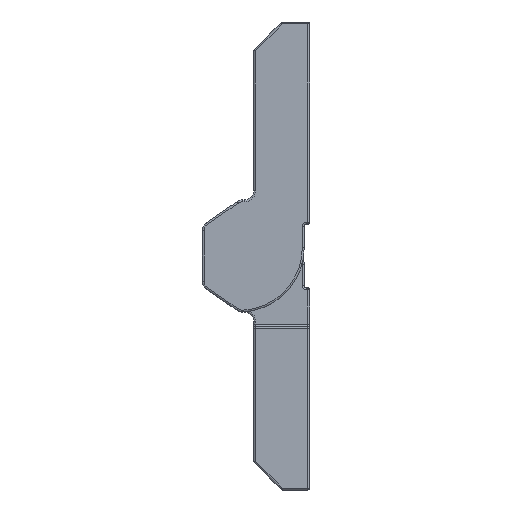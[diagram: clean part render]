
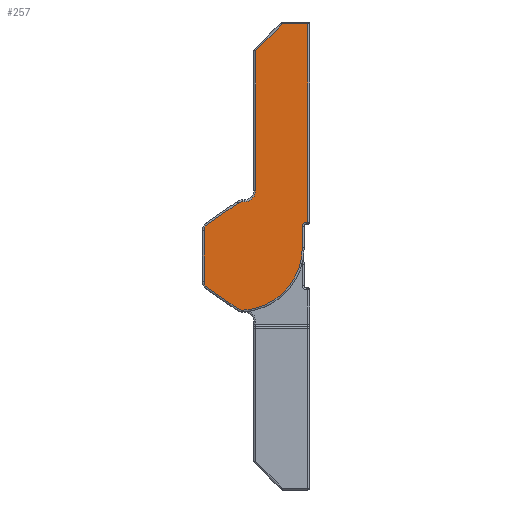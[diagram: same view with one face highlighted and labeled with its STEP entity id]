
A CAD part, left-side view. The second image highlights one B-rep face of the part: STEP entity #257.
In plain terms, the highlighted planar face has unit normal (-1, 0, 0) as drawn and (1, 0, 0) by its records, which use the part's own axes.
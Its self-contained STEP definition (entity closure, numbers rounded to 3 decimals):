
#235 = VERTEX_POINT ( 'NONE', #2197 ) ;
#237 = ORIENTED_EDGE ( 'NONE', *, *, #322, .T. ) ;
#246 = VERTEX_POINT ( 'NONE', #2277 ) ;
#252 = EDGE_CURVE ( 'NONE', #277, #287, #2270, .T. ) ;
#253 = EDGE_CURVE ( 'NONE', #261, #279, #2278, .T. ) ;
#257 = ADVANCED_FACE ( 'NONE', ( #2257 ), #2312, .F. ) ;
#258 = ORIENTED_EDGE ( 'NONE', *, *, #260, .T. ) ;
#259 = ORIENTED_EDGE ( 'NONE', *, *, #253, .F. ) ;
#260 = EDGE_CURVE ( 'NONE', #261, #277, #2308, .T. ) ;
#261 = VERTEX_POINT ( 'NONE', #2311 ) ;
#265 = EDGE_LOOP ( 'NONE', ( #259, #258, #269, #267, #272, #237, #331, #334, #332, #323, #327, #268, #335, #371, #306, #305, #303, #369 ) ) ;
#266 = VERTEX_POINT ( 'NONE', #2309 ) ;
#267 = ORIENTED_EDGE ( 'NONE', *, *, #270, .T. ) ;
#268 = ORIENTED_EDGE ( 'NONE', *, *, #338, .T. ) ;
#269 = ORIENTED_EDGE ( 'NONE', *, *, #252, .T. ) ;
#270 = EDGE_CURVE ( 'NONE', #287, #266, #2302, .T. ) ;
#271 = EDGE_CURVE ( 'NONE', #266, #246, #2297, .T. ) ;
#272 = ORIENTED_EDGE ( 'NONE', *, *, #271, .T. ) ;
#277 = VERTEX_POINT ( 'NONE', #2282 ) ;
#279 = VERTEX_POINT ( 'NONE', #2288 ) ;
#287 = VERTEX_POINT ( 'NONE', #2318 ) ;
#293 = VERTEX_POINT ( 'NONE', #2369 ) ;
#303 = ORIENTED_EDGE ( 'NONE', *, *, #304, .T. ) ;
#304 = EDGE_CURVE ( 'NONE', #1772, #315, #2347, .T. ) ;
#305 = ORIENTED_EDGE ( 'NONE', *, *, #1771, .T. ) ;
#306 = ORIENTED_EDGE ( 'NONE', *, *, #380, .T. ) ;
#311 = VERTEX_POINT ( 'NONE', #2400 ) ;
#312 = EDGE_CURVE ( 'NONE', #315, #279, #2342, .T. ) ;
#315 = VERTEX_POINT ( 'NONE', #2398 ) ;
#319 = EDGE_CURVE ( 'NONE', #329, #293, #2383, .T. ) ;
#320 = VERTEX_POINT ( 'NONE', #2346 ) ;
#321 = VERTEX_POINT ( 'NONE', #2390 ) ;
#322 = EDGE_CURVE ( 'NONE', #246, #324, #2385, .T. ) ;
#323 = ORIENTED_EDGE ( 'NONE', *, *, #326, .T. ) ;
#324 = VERTEX_POINT ( 'NONE', #2386 ) ;
#325 = EDGE_CURVE ( 'NONE', #330, #320, #2379, .T. ) ;
#326 = EDGE_CURVE ( 'NONE', #320, #336, #2430, .T. ) ;
#327 = ORIENTED_EDGE ( 'NONE', *, *, #333, .T. ) ;
#328 = EDGE_CURVE ( 'NONE', #324, #321, #2431, .T. ) ;
#329 = VERTEX_POINT ( 'NONE', #2426 ) ;
#330 = VERTEX_POINT ( 'NONE', #2420 ) ;
#331 = ORIENTED_EDGE ( 'NONE', *, *, #328, .T. ) ;
#332 = ORIENTED_EDGE ( 'NONE', *, *, #325, .T. ) ;
#333 = EDGE_CURVE ( 'NONE', #336, #235, #2424, .T. ) ;
#334 = ORIENTED_EDGE ( 'NONE', *, *, #337, .T. ) ;
#335 = ORIENTED_EDGE ( 'NONE', *, *, #319, .T. ) ;
#336 = VERTEX_POINT ( 'NONE', #2425 ) ;
#337 = EDGE_CURVE ( 'NONE', #321, #330, #2414, .T. ) ;
#338 = EDGE_CURVE ( 'NONE', #235, #329, #2408, .T. ) ;
#369 = ORIENTED_EDGE ( 'NONE', *, *, #312, .T. ) ;
#371 = ORIENTED_EDGE ( 'NONE', *, *, #381, .T. ) ;
#380 = EDGE_CURVE ( 'NONE', #311, #1766, #2524, .T. ) ;
#381 = EDGE_CURVE ( 'NONE', #293, #311, #2526, .T. ) ;
#1766 = VERTEX_POINT ( 'NONE', #4996 ) ;
#1771 = EDGE_CURVE ( 'NONE', #1766, #1772, #4990, .T. ) ;
#1772 = VERTEX_POINT ( 'NONE', #4993 ) ;
#2197 = CARTESIAN_POINT ( 'NONE',  ( 25., 5.55, -2.724 ) ) ;
#2251 = DIRECTION ( 'NONE',  ( 0., 0., 1. ) ) ;
#2252 = DIRECTION ( 'NONE',  ( 1., 0., 0. ) ) ;
#2253 = CARTESIAN_POINT ( 'NONE',  ( 25., -5.35, -3.2 ) ) ;
#2254 = CARTESIAN_POINT ( 'NONE',  ( 25., 5.75, -6. ) ) ;
#2257 = FACE_OUTER_BOUND ( 'NONE', #265, .T. ) ;
#2258 = AXIS2_PLACEMENT_3D ( 'NONE', #2254, #2266, #2265 ) ;
#2259 = DIRECTION ( 'NONE',  ( 0., 0., -1. ) ) ;
#2260 = VECTOR ( 'NONE', #2259, 1000. ) ;
#2265 = DIRECTION ( 'NONE',  ( 0., 0., 1. ) ) ;
#2266 = DIRECTION ( 'NONE',  ( -1., 0., 0. ) ) ;
#2269 = CARTESIAN_POINT ( 'NONE',  ( 25., -5.55, -6. ) ) ;
#2270 = LINE ( 'NONE', #2269, #2260 ) ;
#2276 = AXIS2_PLACEMENT_3D ( 'NONE', #2253, #2252, #2251 ) ;
#2277 = CARTESIAN_POINT ( 'NONE',  ( 25., 0.05, -21.917 ) ) ;
#2278 = CIRCLE ( 'NONE', #2276, 0.4 ) ;
#2282 = CARTESIAN_POINT ( 'NONE',  ( 25., -5.55, -3.6 ) ) ;
#2288 = CARTESIAN_POINT ( 'NONE',  ( 25., -4.95, -3.2 ) ) ;
#2294 = DIRECTION ( 'NONE',  ( 0., 0.707, 0.707 ) ) ;
#2295 = VECTOR ( 'NONE', #2294, 1000. ) ;
#2296 = CARTESIAN_POINT ( 'NONE',  ( 25., 0.109, -21.859 ) ) ;
#2297 = LINE ( 'NONE', #2296, #2295 ) ;
#2299 = DIRECTION ( 'NONE',  ( 0., 1., 0. ) ) ;
#2300 = VECTOR ( 'NONE', #2299, 1000. ) ;
#2301 = CARTESIAN_POINT ( 'NONE',  ( 25., 5.75, -24.8 ) ) ;
#2302 = LINE ( 'NONE', #2301, #2300 ) ;
#2305 = DIRECTION ( 'NONE',  ( 0., -1., 0. ) ) ;
#2306 = VECTOR ( 'NONE', #2305, 1000. ) ;
#2307 = CARTESIAN_POINT ( 'NONE',  ( 25., 5.75, -3.6 ) ) ;
#2308 = LINE ( 'NONE', #2307, #2306 ) ;
#2309 = CARTESIAN_POINT ( 'NONE',  ( 25., -2.833, -24.8 ) ) ;
#2311 = CARTESIAN_POINT ( 'NONE',  ( 25., -5.35, -3.6 ) ) ;
#2312 = PLANE ( 'NONE',  #2258 ) ;
#2318 = CARTESIAN_POINT ( 'NONE',  ( 25., -5.55, -24.8 ) ) ;
#2342 = LINE ( 'NONE', #2393, #2392 ) ;
#2343 = DIRECTION ( 'NONE',  ( 1., 0., 0. ) ) ;
#2344 = CARTESIAN_POINT ( 'NONE',  ( 25., 1.75, -0.9 ) ) ;
#2345 = AXIS2_PLACEMENT_3D ( 'NONE', #2344, #2343, #2402 ) ;
#2346 = CARTESIAN_POINT ( 'NONE',  ( 25., 1.893, -5.659 ) ) ;
#2347 = CIRCLE ( 'NONE', #2345, 6.7 ) ;
#2369 = CARTESIAN_POINT ( 'NONE',  ( 25., 5.203, 3.383 ) ) ;
#2376 = DIRECTION ( 'NONE',  ( 0., 0., 1. ) ) ;
#2377 = VECTOR ( 'NONE', #2376, 1000. ) ;
#2378 = CARTESIAN_POINT ( 'NONE',  ( 25., 0.05, -6. ) ) ;
#2379 = CIRCLE ( 'NONE', #2384, 0.8 ) ;
#2380 = DIRECTION ( 'NONE',  ( 0., 0., 1. ) ) ;
#2381 = DIRECTION ( 'NONE',  ( 1., 0., 0. ) ) ;
#2382 = AXIS2_PLACEMENT_3D ( 'NONE', #2389, #2381, #2380 ) ;
#2383 = CIRCLE ( 'NONE', #2382, 0.8 ) ;
#2384 = AXIS2_PLACEMENT_3D ( 'NONE', #2434, #2433, #2432 ) ;
#2385 = LINE ( 'NONE', #2378, #2377 ) ;
#2386 = CARTESIAN_POINT ( 'NONE',  ( 25., 0.05, -7. ) ) ;
#2389 = CARTESIAN_POINT ( 'NONE',  ( 25., 4.75, 2.724 ) ) ;
#2390 = CARTESIAN_POINT ( 'NONE',  ( 25., 1.25, -5.8 ) ) ;
#2391 = DIRECTION ( 'NONE',  ( 0., 0., -1. ) ) ;
#2392 = VECTOR ( 'NONE', #2391, 1000. ) ;
#2393 = CARTESIAN_POINT ( 'NONE',  ( 25., -4.95, -6. ) ) ;
#2398 = CARTESIAN_POINT ( 'NONE',  ( 25., -4.95, -0.9 ) ) ;
#2400 = CARTESIAN_POINT ( 'NONE',  ( 25., 1.904, 5.652 ) ) ;
#2402 = DIRECTION ( 'NONE',  ( 0., 0., 1. ) ) ;
#2405 = DIRECTION ( 'NONE',  ( 0., 0., 1. ) ) ;
#2406 = VECTOR ( 'NONE', #2405, 1000. ) ;
#2407 = CARTESIAN_POINT ( 'NONE',  ( 25., 5.55, -6. ) ) ;
#2408 = LINE ( 'NONE', #2407, #2406 ) ;
#2411 = DIRECTION ( 'NONE',  ( 0., 1., 0. ) ) ;
#2412 = VECTOR ( 'NONE', #2411, 1000. ) ;
#2413 = CARTESIAN_POINT ( 'NONE',  ( 25., 5.75, -5.8 ) ) ;
#2414 = LINE ( 'NONE', #2413, #2412 ) ;
#2415 = DIRECTION ( 'NONE',  ( 0., 0., 1. ) ) ;
#2416 = DIRECTION ( 'NONE',  ( 1., 0., 0. ) ) ;
#2417 = CARTESIAN_POINT ( 'NONE',  ( 25., 4.75, -2.724 ) ) ;
#2418 = AXIS2_PLACEMENT_3D ( 'NONE', #2417, #2416, #2415 ) ;
#2420 = CARTESIAN_POINT ( 'NONE',  ( 25., 1.439, -5.8 ) ) ;
#2421 = DIRECTION ( 'NONE',  ( 0., 0., 1. ) ) ;
#2422 = DIRECTION ( 'NONE',  ( -1., 0., 0. ) ) ;
#2423 = CARTESIAN_POINT ( 'NONE',  ( 25., 1.25, -7. ) ) ;
#2424 = CIRCLE ( 'NONE', #2418, 0.8 ) ;
#2425 = CARTESIAN_POINT ( 'NONE',  ( 25., 5.203, -3.383 ) ) ;
#2426 = CARTESIAN_POINT ( 'NONE',  ( 25., 5.55, 2.724 ) ) ;
#2427 = DIRECTION ( 'NONE',  ( 0., 0.824, 0.567 ) ) ;
#2428 = VECTOR ( 'NONE', #2427, 1000. ) ;
#2429 = CARTESIAN_POINT ( 'NONE',  ( 25., 4.353, -3.968 ) ) ;
#2430 = LINE ( 'NONE', #2429, #2428 ) ;
#2431 = CIRCLE ( 'NONE', #2435, 1.2 ) ;
#2432 = DIRECTION ( 'NONE',  ( 0., 0., 1. ) ) ;
#2433 = DIRECTION ( 'NONE',  ( 1., 0., 0. ) ) ;
#2434 = CARTESIAN_POINT ( 'NONE',  ( 25., 1.439, -5. ) ) ;
#2435 = AXIS2_PLACEMENT_3D ( 'NONE', #2423, #2422, #2421 ) ;
#2512 = DIRECTION ( 'NONE',  ( 0., -0.824, 0.567 ) ) ;
#2513 = VECTOR ( 'NONE', #2512, 1000. ) ;
#2514 = DIRECTION ( 'NONE',  ( 0., 0., 1. ) ) ;
#2515 = DIRECTION ( 'NONE',  ( 1., 0., 0. ) ) ;
#2516 = CARTESIAN_POINT ( 'NONE',  ( 25., 1.45, 4.992 ) ) ;
#2517 = AXIS2_PLACEMENT_3D ( 'NONE', #2516, #2515, #2514 ) ;
#2524 = CIRCLE ( 'NONE', #2517, 0.8 ) ;
#2525 = CARTESIAN_POINT ( 'NONE',  ( 25., 9.955, 0.116 ) ) ;
#2526 = LINE ( 'NONE', #2525, #2513 ) ;
#4982 = DIRECTION ( 'NONE',  ( 0., 0., 1. ) ) ;
#4983 = DIRECTION ( 'NONE',  ( 1., 0., 0. ) ) ;
#4990 = CIRCLE ( 'NONE', #4991, 0.8 ) ;
#4991 = AXIS2_PLACEMENT_3D ( 'NONE', #4995, #4983, #4982 ) ;
#4993 = CARTESIAN_POINT ( 'NONE',  ( 25., 1.41, 5.791 ) ) ;
#4995 = CARTESIAN_POINT ( 'NONE',  ( 25., 1.45, 4.992 ) ) ;
#4996 = CARTESIAN_POINT ( 'NONE',  ( 25., 1.45, 5.792 ) ) ;
